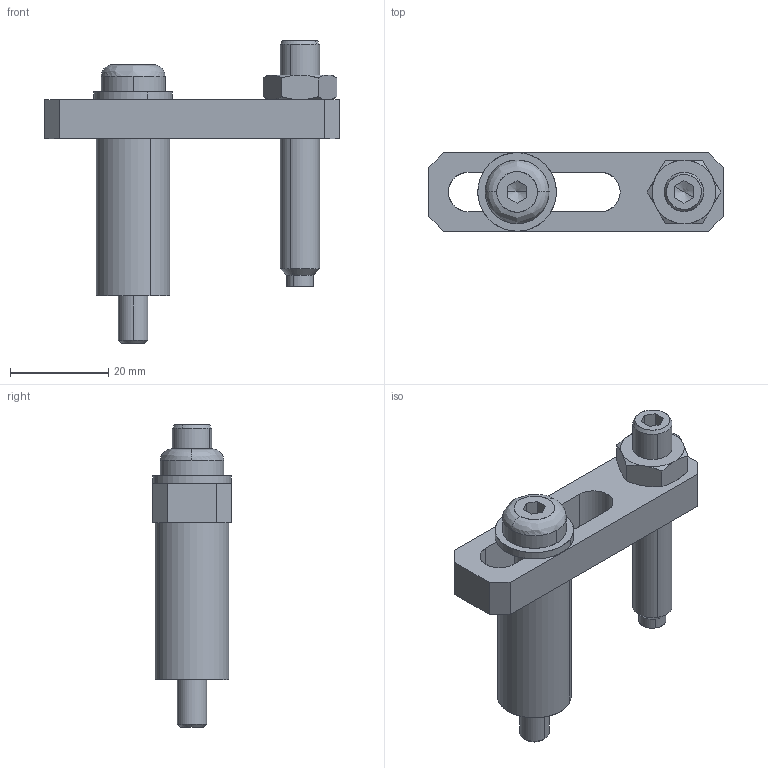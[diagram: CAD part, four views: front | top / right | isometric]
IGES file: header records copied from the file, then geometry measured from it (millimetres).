
Start section: SolidWorks IGES file using analytic representation for surfaces
Global section: file name: X:\11_SW2020-Inv2020\00_全2021-11新製品まで\m\MR-G-1\mr-g-1.IGS; native system: SolidWorks 2020; preprocessor: SolidWorks 2020; author: ImaoCorp; date: 211026.114615; units: millimetre
Bounding box: 60 x 16 x 61.65 mm (x, y, z)
Surface area: 7841.9 mm2 (no closed solid volume)
Topology: 0 solids, 0 shells, 81 faces, 1148 edges, 1144 vertices
Faces by surface type: bspline 41, revolution 40
